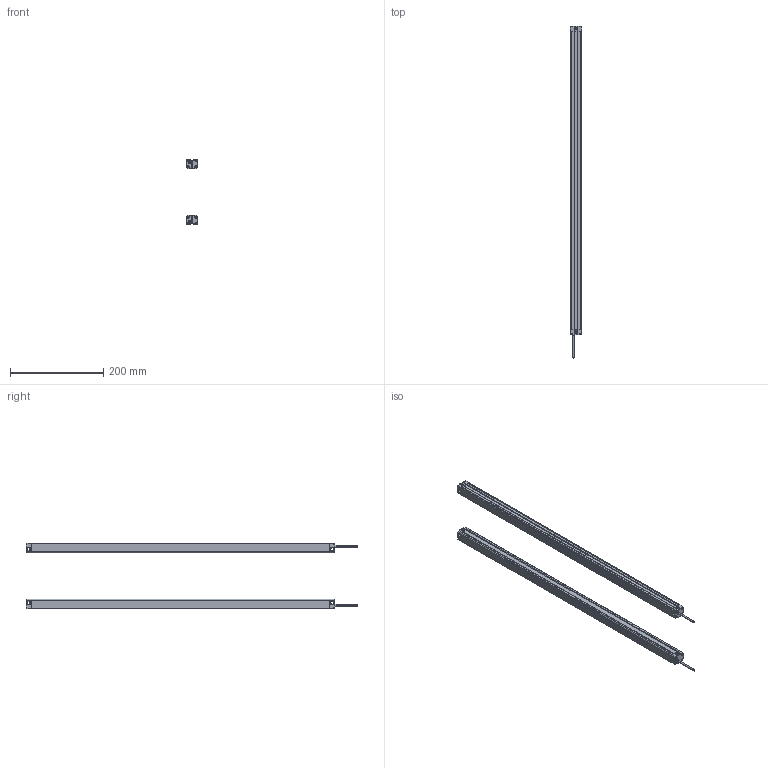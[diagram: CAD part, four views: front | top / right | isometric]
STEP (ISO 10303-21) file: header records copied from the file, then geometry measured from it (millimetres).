
FILE_DESCRIPTION (( 'STEP AP214' ), '1' );
FILE_NAME ('MTC3220.STEP', '2022-08-02T09:00:58', ( '' ), ( '' ), 'SwSTEP 2.0', 'SolidWorks 2018', '' );
FILE_SCHEMA (( 'AUTOMOTIVE_DESIGN' ));
Length unit declared in the file: millimetre
Products named in the file (5): MTC waike^MTC; 噩砃P02^MTC; P02^MTC; MTC3220; P01^MTC
Assembly tree (6 placements, depth 2):
  MTC3220
    MTC waike^MTC  x2
    P01^MTC  x2
    P02^MTC
    噩砃P02^MTC
Bounding box: 25 x 712 x 141.4 mm (x, y, z)
Volume: 221655.3 mm3; surface area: 303401.8 mm2
Topology: 8 solids, 8 shells, 480 faces, 1396 edges, 924 vertices
Faces by surface type: plane 272, cylinder 208
Entity records: 10886 total; most frequent: DIRECTION 1881, CARTESIAN_POINT 1878, ORIENTED_EDGE 1846, EDGE_CURVE 923, AXIS2_PLACEMENT_3D 637, VERTEX_POINT 610, VECTOR 607, LINE 607
